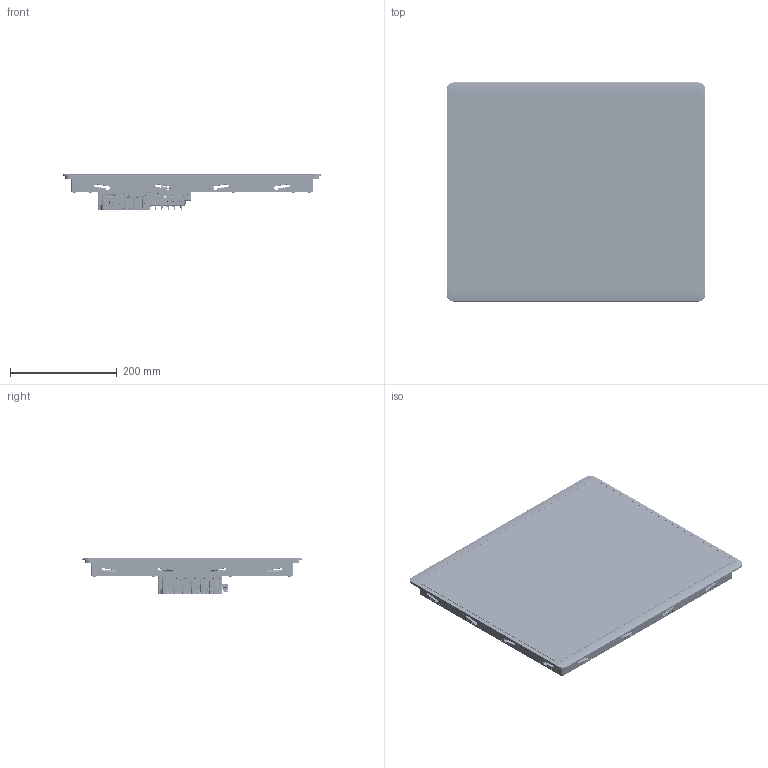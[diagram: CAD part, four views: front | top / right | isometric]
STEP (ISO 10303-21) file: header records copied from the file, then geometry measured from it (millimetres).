
FILE_DESCRIPTION((''),'2;1');
FILE_NAME('19_INCH_TOUCH_ME_ASM','2013-10-03T',('ABPayne'),('Rockwell Automation'),'PRO/ENGINEER BY PARAMETRIC TECHNOLOGY CORPORATION, 2010140','PRO/ENGINEER BY PARAMETRIC TECHNOLOGY CORPORATION, 2010140','');
FILE_SCHEMA(('CONFIG_CONTROL_DESIGN'));
Products named in the file (1): 19_INCH_TOUCH_ME_ASM
Bounding box: 485 x 411 x 69.39 mm (x, y, z)
Volume: 1732630 mm3; surface area: 2069986.1 mm2
Topology: 6 solids, 149 shells, 16877 faces, 45571 edges, 28824 vertices
Faces by surface type: plane 10098, cylinder 3928, cone 1074, bspline 738, torus 734, sphere 231, extrusion 74
Entity records: 579469 total; most frequent: CARTESIAN_POINT 165650, ORIENTED_EDGE 89549, DIRECTION 79818, EDGE_CURVE 45447, VECTOR 30770, LINE 30696, VERTEX_POINT 28902, AXIS2_PLACEMENT_3D 24524
